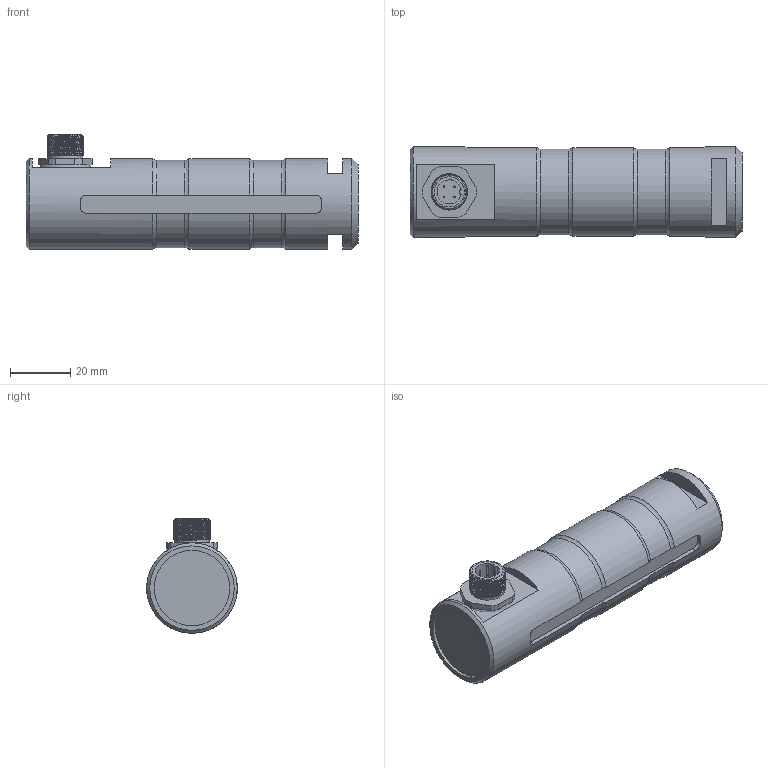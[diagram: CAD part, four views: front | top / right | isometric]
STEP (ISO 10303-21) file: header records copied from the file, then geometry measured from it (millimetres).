
FILE_DESCRIPTION(/* description */ ('Alibre Inc.'),/* implementation_level */ '2;1');
FILE_NAME(/* name */ 'export0',/* time_stamp */ '2013-08-17T07:53:51+02:00',/* author */ (''),/* organization */ (''),/* preprocessor_version */ 'ST-DEVELOPER v14',/* originating_system */ 'Alibre',/* authorisation */ '');
FILE_SCHEMA (('CONFIG_CONTROL_DESIGN'));
Length unit declared in the file: centimetre
Products named in the file (6): ID_1; ID_2; ID_3
Bounding box: 110 x 30 x 38 mm (x, y, z)
Volume: 72966.1 mm3; surface area: 16212.1 mm2
Topology: 8 solids, 8 shells, 154 faces, 349 edges, 219 vertices
Faces by surface type: plane 64, cylinder 52, bspline 23, torus 9, cone 6
Full cylindrical faces by diameter (mm): 0.5 x8, 8 x2, 10 x4, 11.5 x1, 13 x1, 14.376 x1, 25 x1, 30 x2
Entity records: 14449 total; most frequent: CARTESIAN_POINT 11086, ORIENTED_EDGE 626, DIRECTION 408, EDGE_CURVE 308, VERTEX_POINT 207, FACE_BOUND 198, EDGE_LOOP 197, AXIS2_PLACEMENT_3D 181
